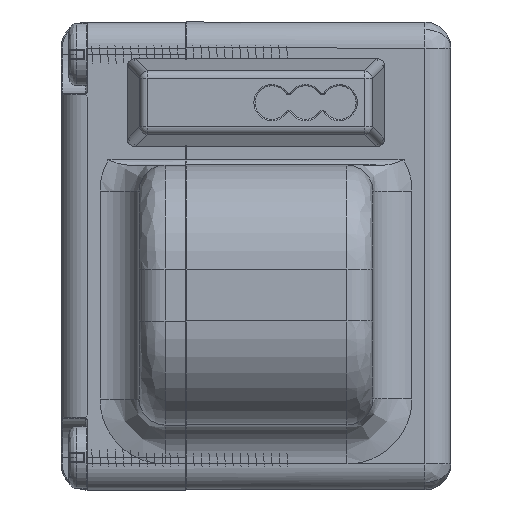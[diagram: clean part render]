
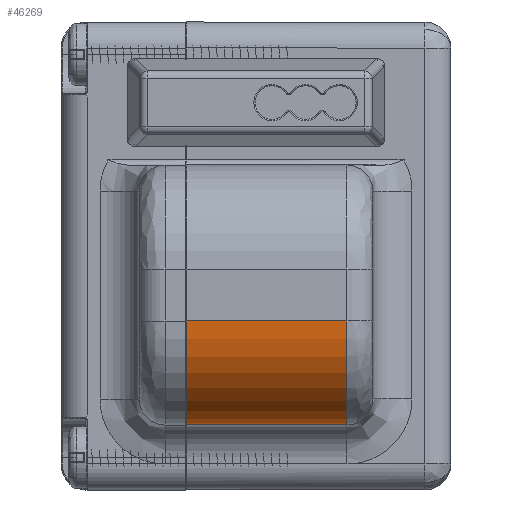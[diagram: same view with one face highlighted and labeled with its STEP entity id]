
A CAD part, front view. The second image highlights one B-rep face of the part: STEP entity #46269.
In plain terms, the highlighted cylindrical face has radius 4 mm (diameter 8 mm), a partial arc.
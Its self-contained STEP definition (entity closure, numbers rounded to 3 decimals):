
#429 = VERTEX_POINT ( 'NONE', #41906 ) ;
#1780 = AXIS2_PLACEMENT_3D ( 'NONE', #53343, #31455, #26511 ) ;
#2269 = ORIENTED_EDGE ( 'NONE', *, *, #25211, .T. ) ;
#5090 = DIRECTION ( 'NONE',  ( -1., 0., 0. ) ) ;
#6721 = EDGE_CURVE ( 'NONE', #46982, #14110, #45202, .T. ) ;
#9859 = CARTESIAN_POINT ( 'NONE',  ( 23., -1., -6.5 ) ) ;
#11246 = CARTESIAN_POINT ( 'NONE',  ( 23., -5., 24.054 ) ) ;
#12735 = CARTESIAN_POINT ( 'NONE',  ( 23., -5., -0.31 ) ) ;
#12840 = CARTESIAN_POINT ( 'NONE',  ( 23., -5., -6.5 ) ) ;
#13754 = CIRCLE ( 'NONE', #51493, 4. ) ;
#13951 = DIRECTION ( 'NONE',  ( 0., 0., 1. ) ) ;
#14110 = VERTEX_POINT ( 'NONE', #12840 ) ;
#15512 = DIRECTION ( 'NONE',  ( 0., 0., -1. ) ) ;
#17217 = EDGE_CURVE ( 'NONE', #14110, #50473, #13754, .T. ) ;
#20117 = DIRECTION ( 'NONE',  ( 0., 0., -1. ) ) ;
#25015 = LINE ( 'NONE', #33625, #45516 ) ;
#25211 = EDGE_CURVE ( 'NONE', #429, #46982, #33659, .T. ) ;
#26194 = FACE_OUTER_BOUND ( 'NONE', #52631, .T. ) ;
#26511 = DIRECTION ( 'NONE',  ( 1., 0., 0. ) ) ;
#27309 = CARTESIAN_POINT ( 'NONE',  ( 27., -1., -6.5 ) ) ;
#31455 = DIRECTION ( 'NONE',  ( 0., 0., -1. ) ) ;
#33625 = CARTESIAN_POINT ( 'NONE',  ( 27., -1., 0. ) ) ;
#33659 = CIRCLE ( 'NONE', #1780, 4. ) ;
#36423 = CYLINDRICAL_SURFACE ( 'NONE', #43736, 4. ) ;
#38796 = DIRECTION ( 'NONE',  ( 0., 0., -1. ) ) ;
#40540 = ORIENTED_EDGE ( 'NONE', *, *, #6721, .T. ) ;
#41906 = CARTESIAN_POINT ( 'NONE',  ( 27., -1., -0.31 ) ) ;
#43396 = EDGE_CURVE ( 'NONE', #429, #50473, #25015, .T. ) ;
#43736 = AXIS2_PLACEMENT_3D ( 'NONE', #54786, #15512, #54594 ) ;
#45202 = LINE ( 'NONE', #11246, #50038 ) ;
#45516 = VECTOR ( 'NONE', #38796, 1000. ) ;
#46269 = ADVANCED_FACE ( 'NONE', ( #26194 ), #36423, .T. ) ;
#46982 = VERTEX_POINT ( 'NONE', #12735 ) ;
#50038 = VECTOR ( 'NONE', #20117, 1000. ) ;
#50473 = VERTEX_POINT ( 'NONE', #27309 ) ;
#51493 = AXIS2_PLACEMENT_3D ( 'NONE', #9859, #13951, #5090 ) ;
#52505 = ORIENTED_EDGE ( 'NONE', *, *, #43396, .F. ) ;
#52631 = EDGE_LOOP ( 'NONE', ( #52505, #2269, #40540, #53302 ) ) ;
#53302 = ORIENTED_EDGE ( 'NONE', *, *, #17217, .T. ) ;
#53343 = CARTESIAN_POINT ( 'NONE',  ( 23., -1., -0.31 ) ) ;
#54594 = DIRECTION ( 'NONE',  ( -1., 0., 0. ) ) ;
#54786 = CARTESIAN_POINT ( 'NONE',  ( 23., -1., 24.054 ) ) ;
